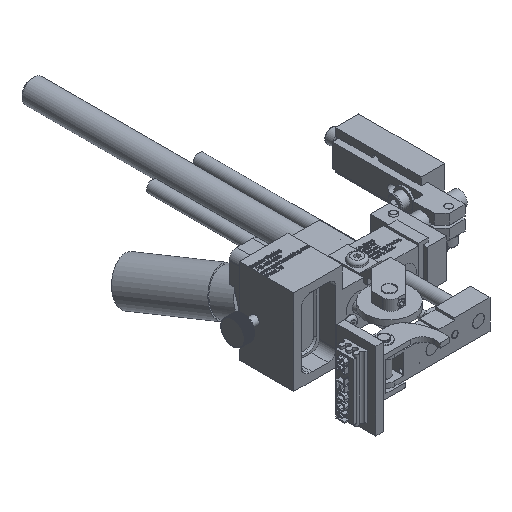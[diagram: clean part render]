
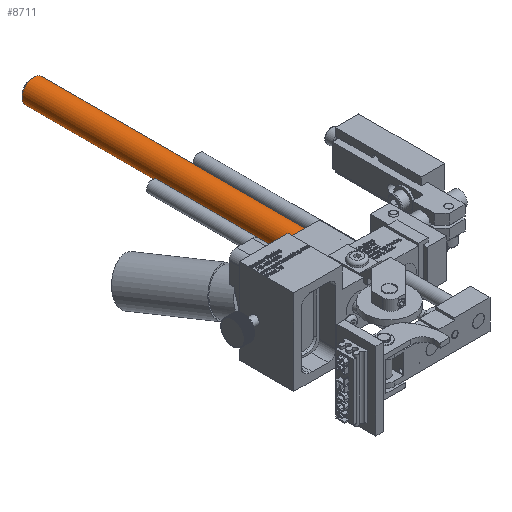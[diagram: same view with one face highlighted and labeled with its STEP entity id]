
A CAD part, isometric view. The second image highlights one B-rep face of the part: STEP entity #8711.
In plain terms, the highlighted cylindrical face has radius 4.763 mm (diameter 9.525 mm), a full revolution.
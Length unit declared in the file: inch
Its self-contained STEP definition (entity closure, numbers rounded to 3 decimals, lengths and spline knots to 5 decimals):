
#8680=CARTESIAN_POINT('',(-0.01557,5.57919,-0.5305));
#8681=VERTEX_POINT('',#8680);
#8682=CARTESIAN_POINT('',(-0.01557,5.57919,-0.343));
#8683=DIRECTION('',(0.0,1.0,0.0));
#8684=DIRECTION('',(0.0,0.0,1.0));
#8685=AXIS2_PLACEMENT_3D('',#8682,#8683,#8684);
#8686=CIRCLE('',#8685,0.1875);
#8687=EDGE_CURVE('',#8681,#8681,#8686,.T.);
#8692=CARTESIAN_POINT('',(-0.01557,1.23419,-0.343));
#8693=DIRECTION('',(0.,1.0,0.0));
#8694=DIRECTION('',(0.0,0.0,1.0));
#8695=AXIS2_PLACEMENT_3D('',#8692,#8693,#8694);
#8696=CYLINDRICAL_SURFACE('',#8695,0.1875);
#8697=CARTESIAN_POINT('',(-0.01557,1.23419,-0.5305));
#8698=VERTEX_POINT('',#8697);
#8699=CARTESIAN_POINT('',(-0.01557,1.23419,-0.343));
#8700=DIRECTION('',(0.0,-1.0,0.0));
#8701=DIRECTION('',(0.0,0.0,1.0));
#8702=AXIS2_PLACEMENT_3D('',#8699,#8700,#8701);
#8703=CIRCLE('',#8702,0.1875);
#8704=EDGE_CURVE('',#8698,#8698,#8703,.T.);
#8705=ORIENTED_EDGE('',*,*,#8704,.F.);
#8706=EDGE_LOOP('',(#8705));
#8707=FACE_OUTER_BOUND('',#8706,.T.);
#8708=ORIENTED_EDGE('',*,*,#8687,.F.);
#8709=EDGE_LOOP('',(#8708));
#8710=FACE_BOUND('',#8709,.T.);
#8711=ADVANCED_FACE('',(#8707,#8710),#8696,.T.);
